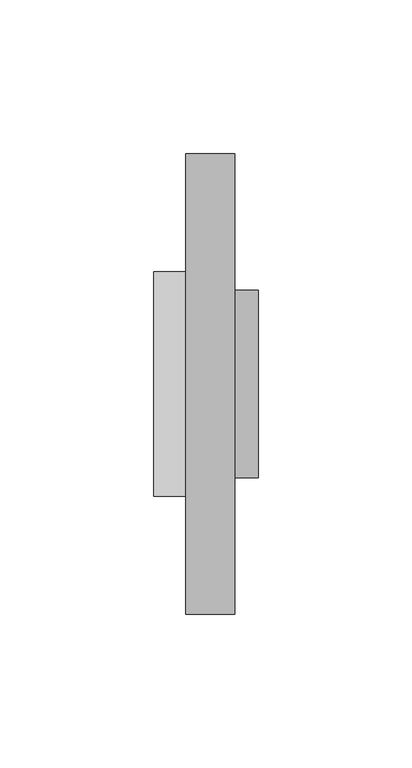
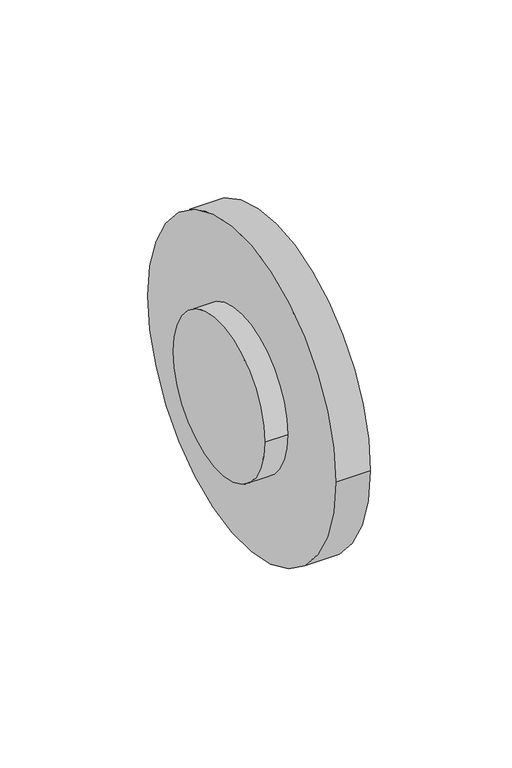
"""IFC4 building model written with IfcOpenShell, lengths in millimetres: pipe fitting geometry, NIRON RED termofusion casquillo con brida : Estándar."""

from ifc_helpers import new_model, si_unit, point, frame, origin, origin_2d, place, context, project, spatial, circle_curve, trimmed, segment, composite_curve, outline, extrude, source, transform, mapped, element, save


def pipe_fitting_1350bc2a(model_context):
    return source(origin(), model_context, "Body", "SweptSolid", [
        extrude(outline(composite_curve([segment(trimmed(circle_curve(origin_2d(), 30.5), [point((30.5, 0.0))], [point((-30.5, 0.0))], False, "CARTESIAN"), True, "CONTINUOUS"), segment(trimmed(circle_curve(origin_2d(), 30.5), [point((-30.5, 0.0))], [point((30.5, 0.0))], False, "CARTESIAN"), True, "CONTINUOUS")], self_intersect=False)), frame((10.5, 0.0, 0.0), z_axis=(1.0, 0.0, 0.0), x_axis=(0.0, 1.0, 0.0)), (0.0, 0.0, 1.0), 23.5),
        extrude(outline(composite_curve([segment(trimmed(circle_curve(origin_2d(), 36.6), [point((-36.6, 0.0))], [point((36.6, 0.0))], False, "CARTESIAN"), True, "CONTINUOUS"), segment(trimmed(circle_curve(origin_2d(), 36.6), [point((36.6, 0.0))], [point((-36.6, 0.0))], False, "CARTESIAN"), True, "CONTINUOUS")], self_intersect=False)), frame((0.0, 0.0, 0.0), z_axis=(1.0, 0.0, 0.0), x_axis=(0.0, 1.0, 0.0)), (0.0, 0.0, 1.0), 10.5),
        extrude(outline(composite_curve([segment(trimmed(circle_curve(origin_2d(), 75.0), [point((75.0, 0.0))], [point((-75.0, 0.0))], False, "CARTESIAN"), True, "CONTINUOUS"), segment(trimmed(circle_curve(origin_2d(), 75.0), [point((-75.0, 0.0))], [point((75.0, 0.0))], False, "CARTESIAN"), True, "CONTINUOUS")], self_intersect=False), holes=[composite_curve([segment(trimmed(circle_curve(origin_2d(), 31.0), [point((31.0, 0.0))], [point((-31.0, 0.0))], True, "CARTESIAN"), True, "CONTINUOUS"), segment(trimmed(circle_curve(origin_2d(), 31.0), [point((-31.0, 0.0))], [point((31.0, 0.0))], True, "CARTESIAN"), True, "CONTINUOUS")], self_intersect=False)]), frame((10.5, 0.0, 0.0), z_axis=(1.0, 0.0, 0.0), x_axis=(0.0, 1.0, 0.0)), (0.0, 0.0, 1.0), 16.0),
    ])


if __name__ == "__main__":
    model = new_model("IFC4")
    model_context = context("Model", 3, world=origin())
    ifc_project = project(units=[si_unit("LENGTHUNIT", "METRE", prefix="MILLI")], contexts=[model_context])
    site = spatial("IfcSite", under=ifc_project)
    building = spatial("IfcBuilding", under=site)
    placement = place(None, origin())
    pipe_fitting_shape = pipe_fitting_1350bc2a(model_context)
    element("IfcPipeFitting", 1, ObjectType="NIRON RED termofusion casquillo con brida : Estándar", at=placement, inside=building, context=model_context, shape_type="MappedRepresentation", body=[
        mapped(pipe_fitting_shape, transform((0.0, 0.0, 0.0), x_axis=(1.0, 0.0, 0.0), y_axis=(0.0, 1.0, 0.0), z_axis=(0.0, 0.0, 1.0))),
    ])
    save(model, "model.ifc")
